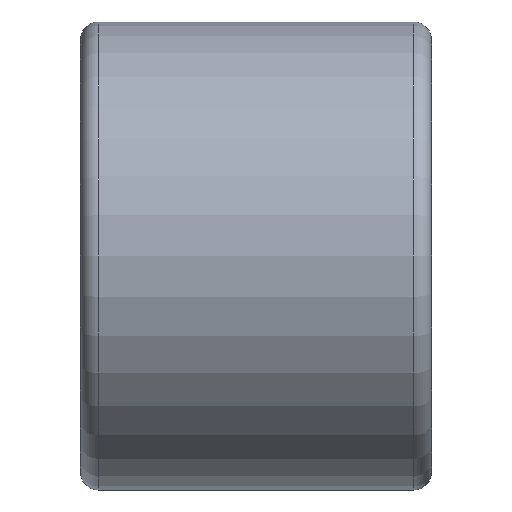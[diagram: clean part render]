
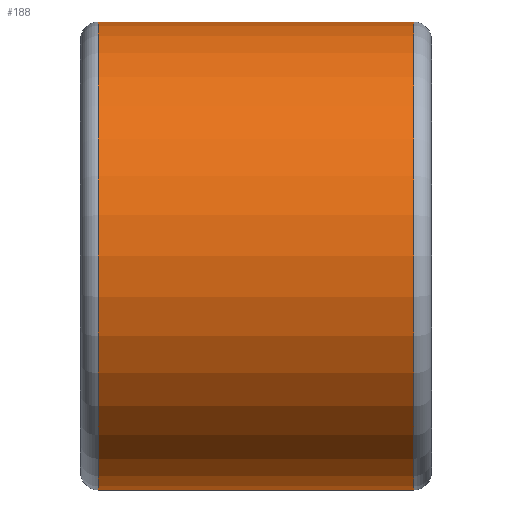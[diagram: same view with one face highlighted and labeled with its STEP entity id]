
A CAD part, front view. The second image highlights one B-rep face of the part: STEP entity #188.
In plain terms, the highlighted cylindrical face has radius 40 mm (diameter 80 mm), a partial arc.
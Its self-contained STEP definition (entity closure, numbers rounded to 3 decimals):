
#26 = EDGE_CURVE ( 'NONE', #153, #689, #86, .T. ) ;
#41 = EDGE_LOOP ( 'NONE', ( #352, #436, #221, #94 ) ) ;
#44 = VECTOR ( 'NONE', #529, 1000. ) ;
#59 = EDGE_CURVE ( 'NONE', #682, #689, #452, .T. ) ;
#82 = DIRECTION ( 'NONE',  ( -1., 0., 0. ) ) ;
#86 = LINE ( 'NONE', #240, #44 ) ;
#94 = ORIENTED_EDGE ( 'NONE', *, *, #59, .F. ) ;
#124 = EDGE_CURVE ( 'NONE', #431, #153, #194, .T. ) ;
#153 = VERTEX_POINT ( 'NONE', #209 ) ;
#160 = VECTOR ( 'NONE', #402, 1000. ) ;
#188 = ADVANCED_FACE ( 'NONE', ( #547 ), #494, .T. ) ;
#192 = LINE ( 'NONE', #198, #160 ) ;
#194 = CIRCLE ( 'NONE', #691, 40. ) ;
#198 = CARTESIAN_POINT ( 'NONE',  ( -35.495, 0., -40. ) ) ;
#200 = CARTESIAN_POINT ( 'NONE',  ( -27., 0., 40. ) ) ;
#209 = CARTESIAN_POINT ( 'NONE',  ( 27., 0., 40. ) ) ;
#213 = DIRECTION ( 'NONE',  ( 0., 0., 1. ) ) ;
#219 = DIRECTION ( 'NONE',  ( -1., 0., 0. ) ) ;
#221 = ORIENTED_EDGE ( 'NONE', *, *, #26, .T. ) ;
#240 = CARTESIAN_POINT ( 'NONE',  ( -35.495, 0., 40. ) ) ;
#271 = DIRECTION ( 'NONE',  ( -1., 0., 0. ) ) ;
#299 = DIRECTION ( 'NONE',  ( 0., 0., 1. ) ) ;
#352 = ORIENTED_EDGE ( 'NONE', *, *, #551, .F. ) ;
#366 = CARTESIAN_POINT ( 'NONE',  ( -27., 0., -40. ) ) ;
#379 = DIRECTION ( 'NONE',  ( 0., 0., 1. ) ) ;
#401 = AXIS2_PLACEMENT_3D ( 'NONE', #703, #219, #213 ) ;
#402 = DIRECTION ( 'NONE',  ( -1., 0., 0. ) ) ;
#409 = CARTESIAN_POINT ( 'NONE',  ( 27., 0., -40. ) ) ;
#431 = VERTEX_POINT ( 'NONE', #409 ) ;
#436 = ORIENTED_EDGE ( 'NONE', *, *, #124, .T. ) ;
#452 = CIRCLE ( 'NONE', #510, 40. ) ;
#494 = CYLINDRICAL_SURFACE ( 'NONE', #401, 40. ) ;
#510 = AXIS2_PLACEMENT_3D ( 'NONE', #573, #82, #299 ) ;
#529 = DIRECTION ( 'NONE',  ( -1., 0., 0. ) ) ;
#547 = FACE_OUTER_BOUND ( 'NONE', #41, .T. ) ;
#551 = EDGE_CURVE ( 'NONE', #431, #682, #192, .T. ) ;
#573 = CARTESIAN_POINT ( 'NONE',  ( -27., 0., 0. ) ) ;
#649 = CARTESIAN_POINT ( 'NONE',  ( 27., 0., 0. ) ) ;
#682 = VERTEX_POINT ( 'NONE', #366 ) ;
#689 = VERTEX_POINT ( 'NONE', #200 ) ;
#691 = AXIS2_PLACEMENT_3D ( 'NONE', #649, #271, #379 ) ;
#703 = CARTESIAN_POINT ( 'NONE',  ( -35.495, 0., 0. ) ) ;
